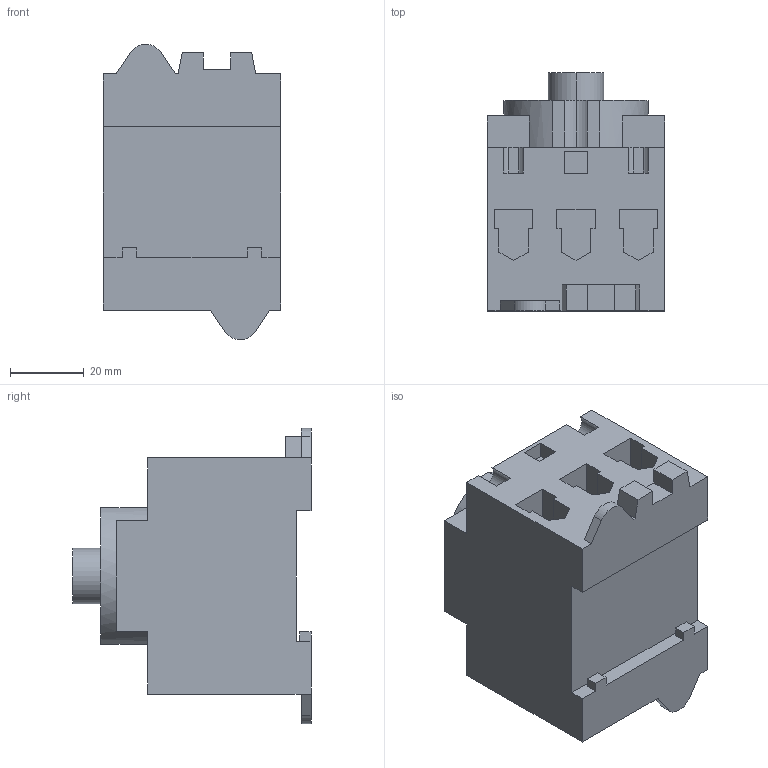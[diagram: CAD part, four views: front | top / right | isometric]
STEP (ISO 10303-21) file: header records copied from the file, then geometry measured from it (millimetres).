
FILE_DESCRIPTION (( 'STEP AP203' ), '1' );
FILE_NAME ('LTS63 VZV A3_Unterteil.STEP', '2012-12-06T06:15:58', ( 'edv' ), ( '' ), 'SwSTEP 2.0', 'SolidWorks 2013', '' );
FILE_SCHEMA (( 'CONFIG_CONTROL_DESIGN' ));
Length unit declared in the file: millimetre
Products named in the file (1): LTS63 VZV A3_Unterteil
Bounding box: 48 x 64.5 x 80 mm (x, y, z)
Volume: 132811 mm3; surface area: 26311.2 mm2
Topology: 1 solids, 1 shells, 175 faces, 474 edges, 312 vertices
Faces by surface type: plane 131, cylinder 32, cone 12
Entity records: 5553 total; most frequent: CARTESIAN_POINT 962, ORIENTED_EDGE 948, DIRECTION 906, EDGE_CURVE 474, LINE 394, VECTOR 394, VERTEX_POINT 312, AXIS2_PLACEMENT_3D 256
